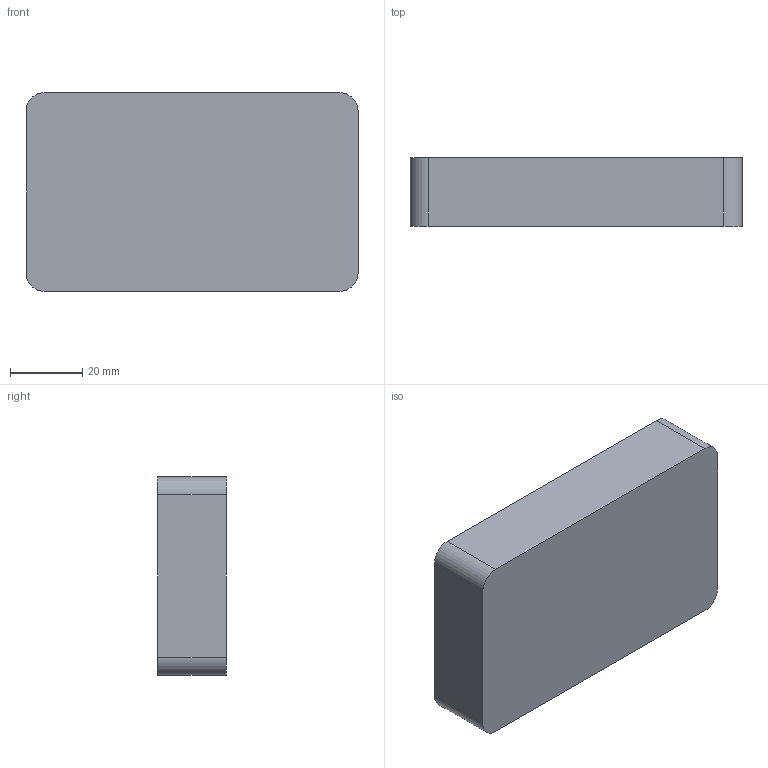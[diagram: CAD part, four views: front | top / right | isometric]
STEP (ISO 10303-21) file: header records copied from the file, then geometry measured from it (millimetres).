
FILE_DESCRIPTION (( 'STEP AP214' ), '1' );
FILE_NAME ('11-333-00010-0102 Êîðïóñ.STEP', '2021-06-07T08:36:05', ( '' ), ( '' ), 'SwSTEP 2.0', 'SolidWorks 2021', '' );
FILE_SCHEMA (( 'AUTOMOTIVE_DESIGN' ));
Length unit declared in the file: millimetre
Products named in the file (1): 11-333-00010-0102 扻豵鵨
Bounding box: 92 x 19 x 55 mm (x, y, z)
Volume: 45059.6 mm3; surface area: 19161.8 mm2
Topology: 1 solids, 1 shells, 74 faces, 186 edges, 113 vertices
Faces by surface type: cylinder 32, plane 24, cone 18
Entity records: 2292 total; most frequent: DIRECTION 398, CARTESIAN_POINT 364, ORIENTED_EDGE 352, EDGE_CURVE 176, AXIS2_PLACEMENT_3D 147, VERTEX_POINT 113, VECTOR 104, LINE 104
